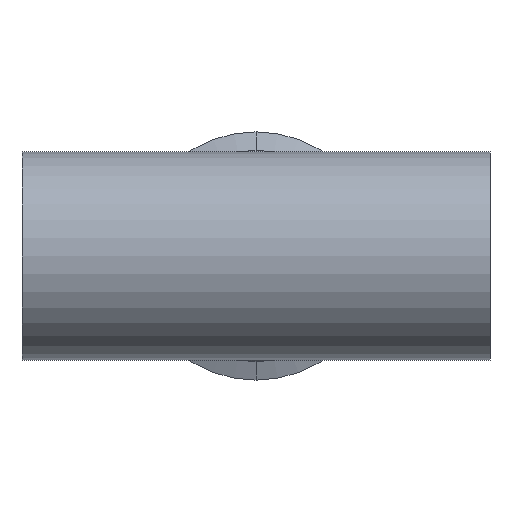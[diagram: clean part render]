
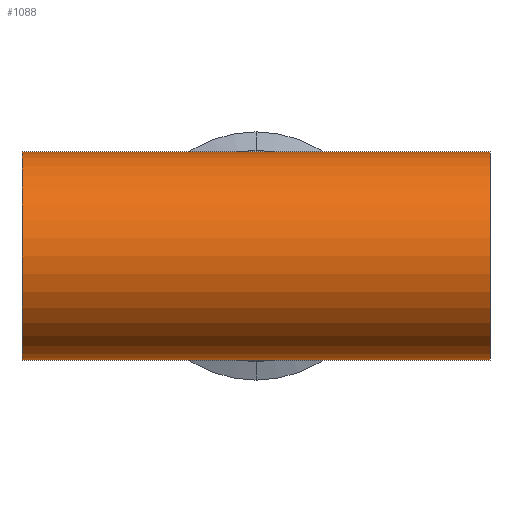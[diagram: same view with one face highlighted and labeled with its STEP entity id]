
A CAD part, front view. The second image highlights one B-rep face of the part: STEP entity #1088.
In plain terms, the highlighted cylindrical face has radius 38.1 mm (diameter 76.2 mm), a partial arc.
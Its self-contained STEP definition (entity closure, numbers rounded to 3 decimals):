
#81 = EDGE_CURVE ( 'NONE', #135, #1274, #1741, .T. ) ;
#110 = VERTEX_POINT ( 'NONE', #827 ) ;
#123 = CARTESIAN_POINT ( 'NONE',  ( -85.7, 0., -38.1 ) ) ;
#135 = VERTEX_POINT ( 'NONE', #551 ) ;
#138 = VECTOR ( 'NONE', #1407, 1000. ) ;
#241 = DIRECTION ( 'NONE',  ( 1., 0., 0. ) ) ;
#254 = CARTESIAN_POINT ( 'NONE',  ( 85.7, 0., 0. ) ) ;
#263 = EDGE_CURVE ( 'NONE', #1344, #110, #898, .T. ) ;
#282 = DIRECTION ( 'NONE',  ( -1., 0., 0. ) ) ;
#317 = VERTEX_POINT ( 'NONE', #1151 ) ;
#344 = ORIENTED_EDGE ( 'NONE', *, *, #263, .T. ) ;
#393 = EDGE_CURVE ( 'NONE', #1516, #317, #853, .T. ) ;
#442 = DIRECTION ( 'NONE',  ( 1., 0., 0. ) ) ;
#448 = CYLINDRICAL_SURFACE ( 'NONE', #1269, 38.1 ) ;
#498 = EDGE_CURVE ( 'NONE', #110, #1516, #1133, .T. ) ;
#507 = ORIENTED_EDGE ( 'NONE', *, *, #498, .T. ) ;
#537 = LINE ( 'NONE', #1687, #1337 ) ;
#546 = CIRCLE ( 'NONE', #1478, 38.1 ) ;
#551 = CARTESIAN_POINT ( 'NONE',  ( -85.7, 0., 38.1 ) ) ;
#576 = CARTESIAN_POINT ( 'NONE',  ( 85.7, 0., -38.1 ) ) ;
#579 = EDGE_CURVE ( 'NONE', #135, #1344, #546, .T. ) ;
#804 = CARTESIAN_POINT ( 'NONE',  ( -85.7, 0., 0. ) ) ;
#827 = CARTESIAN_POINT ( 'NONE',  ( 0., 0., -38.1 ) ) ;
#853 = CIRCLE ( 'NONE', #1051, 38.1 ) ;
#864 = CARTESIAN_POINT ( 'NONE',  ( -85.7, 0., 38.1 ) ) ;
#868 = ORIENTED_EDGE ( 'NONE', *, *, #393, .T. ) ;
#887 = EDGE_CURVE ( 'NONE', #1274, #317, #537, .T. ) ;
#898 = LINE ( 'NONE', #123, #1283 ) ;
#1014 = DIRECTION ( 'NONE',  ( 0., 0., -1. ) ) ;
#1051 = AXIS2_PLACEMENT_3D ( 'NONE', #254, #282, #1827 ) ;
#1088 = ADVANCED_FACE ( 'NONE', ( #1235 ), #448, .T. ) ;
#1133 = LINE ( 'NONE', #1238, #138 ) ;
#1151 = CARTESIAN_POINT ( 'NONE',  ( 85.7, 0., 38.1 ) ) ;
#1184 = DIRECTION ( 'NONE',  ( 1., 0., 0. ) ) ;
#1234 = CARTESIAN_POINT ( 'NONE',  ( -85.7, 0., -38.1 ) ) ;
#1235 = FACE_OUTER_BOUND ( 'NONE', #1469, .T. ) ;
#1238 = CARTESIAN_POINT ( 'NONE',  ( -85.7, 0., -38.1 ) ) ;
#1247 = CARTESIAN_POINT ( 'NONE',  ( -85.7, 0., 0. ) ) ;
#1269 = AXIS2_PLACEMENT_3D ( 'NONE', #1247, #1410, #1555 ) ;
#1274 = VERTEX_POINT ( 'NONE', #1767 ) ;
#1283 = VECTOR ( 'NONE', #1563, 1000. ) ;
#1325 = VECTOR ( 'NONE', #1184, 1000. ) ;
#1337 = VECTOR ( 'NONE', #241, 1000. ) ;
#1344 = VERTEX_POINT ( 'NONE', #1234 ) ;
#1396 = ORIENTED_EDGE ( 'NONE', *, *, #887, .F. ) ;
#1407 = DIRECTION ( 'NONE',  ( 1., 0., 0. ) ) ;
#1410 = DIRECTION ( 'NONE',  ( 1., 0., 0. ) ) ;
#1456 = ORIENTED_EDGE ( 'NONE', *, *, #579, .T. ) ;
#1459 = ORIENTED_EDGE ( 'NONE', *, *, #81, .F. ) ;
#1469 = EDGE_LOOP ( 'NONE', ( #1459, #1456, #344, #507, #868, #1396 ) ) ;
#1478 = AXIS2_PLACEMENT_3D ( 'NONE', #804, #442, #1014 ) ;
#1516 = VERTEX_POINT ( 'NONE', #576 ) ;
#1555 = DIRECTION ( 'NONE',  ( 0., 0., -1. ) ) ;
#1563 = DIRECTION ( 'NONE',  ( 1., 0., 0. ) ) ;
#1687 = CARTESIAN_POINT ( 'NONE',  ( -85.7, 0., 38.1 ) ) ;
#1741 = LINE ( 'NONE', #864, #1325 ) ;
#1767 = CARTESIAN_POINT ( 'NONE',  ( 0., 0., 38.1 ) ) ;
#1827 = DIRECTION ( 'NONE',  ( 0., 0., -1. ) ) ;
